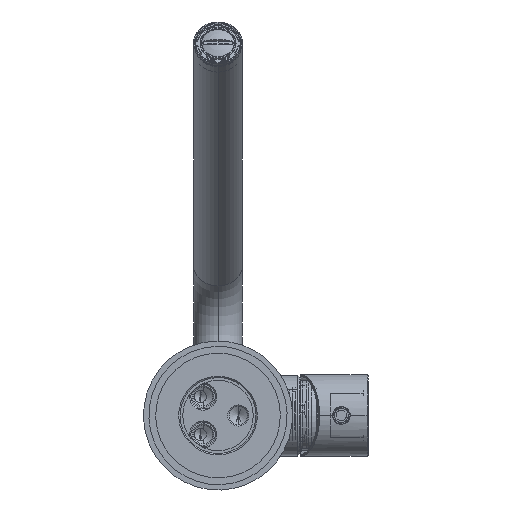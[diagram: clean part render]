
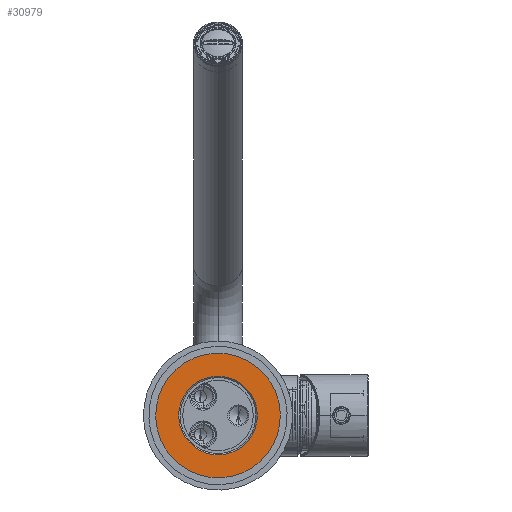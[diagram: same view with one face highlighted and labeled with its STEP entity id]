
A CAD part, front view. The second image highlights one B-rep face of the part: STEP entity #30979.
In plain terms, the highlighted planar face has unit normal (0, -1, 0).
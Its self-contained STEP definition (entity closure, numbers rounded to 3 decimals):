
#205 = EDGE_LOOP ( 'NONE', ( #28633, #27095 ) ) ;
#2907 = DIRECTION ( 'NONE',  ( 0., 1., 0. ) ) ;
#3232 = AXIS2_PLACEMENT_3D ( 'NONE', #31584, #21786, #31382 ) ;
#3373 = CARTESIAN_POINT ( 'NONE',  ( 0., 0., -23. ) ) ;
#4811 = FACE_BOUND ( 'NONE', #32223, .T. ) ;
#5031 = PLANE ( 'NONE',  #3232 ) ;
#5282 = EDGE_CURVE ( 'NONE', #16625, #41010, #22833, .T. ) ;
#6470 = EDGE_CURVE ( 'NONE', #20321, #14770, #40837, .T. ) ;
#6823 = AXIS2_PLACEMENT_3D ( 'NONE', #15977, #2907, #9866 ) ;
#9866 = DIRECTION ( 'NONE',  ( 0., 0., 1. ) ) ;
#14656 = DIRECTION ( 'NONE',  ( 0., -1., 0. ) ) ;
#14770 = VERTEX_POINT ( 'NONE', #3373 ) ;
#15977 = CARTESIAN_POINT ( 'NONE',  ( 0., 0., 0. ) ) ;
#16625 = VERTEX_POINT ( 'NONE', #34057 ) ;
#17029 = CARTESIAN_POINT ( 'NONE',  ( 0., 0., 0. ) ) ;
#17886 = DIRECTION ( 'NONE',  ( 0., 0., -1. ) ) ;
#19285 = AXIS2_PLACEMENT_3D ( 'NONE', #17029, #30300, #21813 ) ;
#20321 = VERTEX_POINT ( 'NONE', #42003 ) ;
#21642 = EDGE_CURVE ( 'NONE', #41010, #16625, #35566, .T. ) ;
#21786 = DIRECTION ( 'NONE',  ( 0., 1., 0. ) ) ;
#21813 = DIRECTION ( 'NONE',  ( 0., 0., -1. ) ) ;
#22833 = CIRCLE ( 'NONE', #6823, 14.5 ) ;
#23042 = CARTESIAN_POINT ( 'NONE',  ( 0., 0., 14.5 ) ) ;
#24857 = ORIENTED_EDGE ( 'NONE', *, *, #5282, .T. ) ;
#25270 = FACE_OUTER_BOUND ( 'NONE', #205, .T. ) ;
#27095 = ORIENTED_EDGE ( 'NONE', *, *, #6470, .T. ) ;
#28631 = AXIS2_PLACEMENT_3D ( 'NONE', #29470, #39026, #28635 ) ;
#28633 = ORIENTED_EDGE ( 'NONE', *, *, #29460, .T. ) ;
#28635 = DIRECTION ( 'NONE',  ( 0., 0., 1. ) ) ;
#29460 = EDGE_CURVE ( 'NONE', #14770, #20321, #34096, .T. ) ;
#29470 = CARTESIAN_POINT ( 'NONE',  ( 0., 0., 0. ) ) ;
#30295 = CARTESIAN_POINT ( 'NONE',  ( 0., 0., 0. ) ) ;
#30300 = DIRECTION ( 'NONE',  ( 0., -1., 0. ) ) ;
#30979 = ADVANCED_FACE ( 'NONE', ( #4811, #25270 ), #5031, .F. ) ;
#31382 = DIRECTION ( 'NONE',  ( 0., 0., 1. ) ) ;
#31584 = CARTESIAN_POINT ( 'NONE',  ( -14., 0., 0. ) ) ;
#32223 = EDGE_LOOP ( 'NONE', ( #24857, #32573 ) ) ;
#32573 = ORIENTED_EDGE ( 'NONE', *, *, #21642, .T. ) ;
#34057 = CARTESIAN_POINT ( 'NONE',  ( 0., 0., -14.5 ) ) ;
#34096 = CIRCLE ( 'NONE', #39608, 23. ) ;
#35566 = CIRCLE ( 'NONE', #28631, 14.5 ) ;
#39026 = DIRECTION ( 'NONE',  ( 0., 1., 0. ) ) ;
#39608 = AXIS2_PLACEMENT_3D ( 'NONE', #30295, #14656, #17886 ) ;
#40837 = CIRCLE ( 'NONE', #19285, 23. ) ;
#41010 = VERTEX_POINT ( 'NONE', #23042 ) ;
#42003 = CARTESIAN_POINT ( 'NONE',  ( 0., 0., 23. ) ) ;
